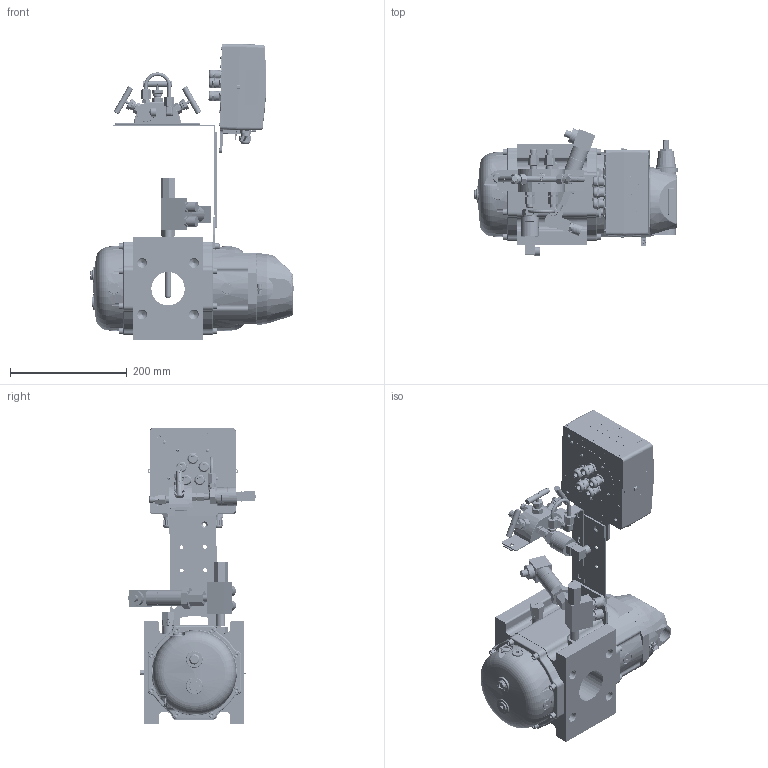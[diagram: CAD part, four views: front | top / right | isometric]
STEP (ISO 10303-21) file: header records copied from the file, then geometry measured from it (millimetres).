
FILE_DESCRIPTION(('STEP AP242'), '1');
FILE_NAME('ÝÐ-245-G40 áåç èñòîðèè', '', ('UNSPECIFIED'), ('UNSPECIFIED'), 'C3D Converter', 'C3D Toolkit', '');
FILE_SCHEMA(('AP242_MANAGED_MODEL_BASED_3D_ENGINEERING_MIM_LF { 1 0 10303 442 1 1 4 }'));
Length unit declared in the file: millimetre
Bounding box: 348 x 218.25 x 506.62 mm (x, y, z)
Volume: 7025560 mm3; surface area: 1014188.8 mm2
Topology: 165 solids, 168 shells, 33500 faces, 90892 edges, 60022 vertices
Faces by surface type: plane 15527, extrusion 11492, cylinder 4371, cone 798, bspline 750, torus 488, sphere 74
Full cylindrical faces by diameter (mm): 1.5 x1, 1.95 x3, 2 x12, 2.459 x22, 2.5 x4, 2.791 x2, 2.9 x4, 3 x30, 3.2 x13, 3.242 x12, 3.3 x6, 3.45 x7, 3.5 x16, 4 x22, 4.1 x8, 4.134 x1, 4.2 x12, 4.4 x1, 4.917 x19, 5 x22, 5.2 x4, 5.5 x20, 5.6 x20, 6 x31, 6.2 x2, 6.4 x6, 6.5 x24, 6.6 x16, 7 x22, 8 x22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
Entity records: 1438267 total; most frequent: CARTESIAN_POINT 395607, ORIENTED_EDGE 178578, DIRECTION 127865, EDGE_CURVE 89289, VECTOR 63397, VERTEX_POINT 59947, LINE 51905, EDGE_LOOP 37705
